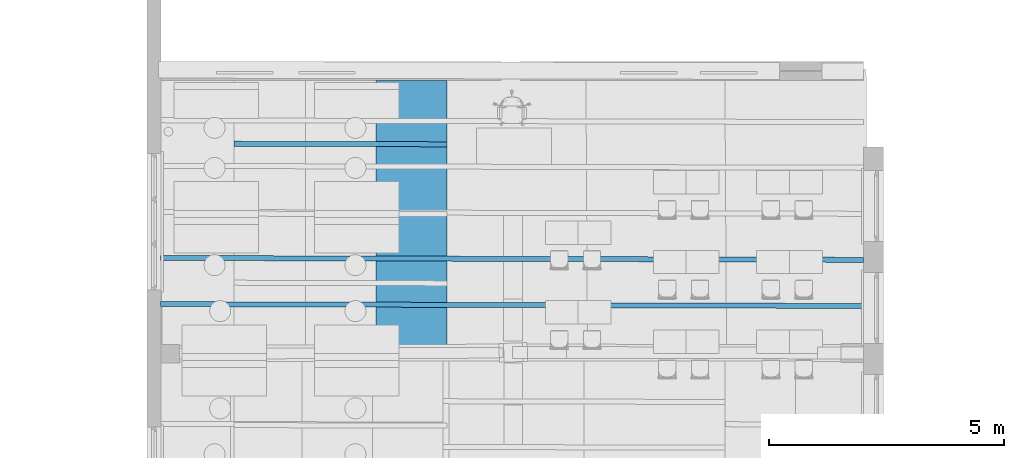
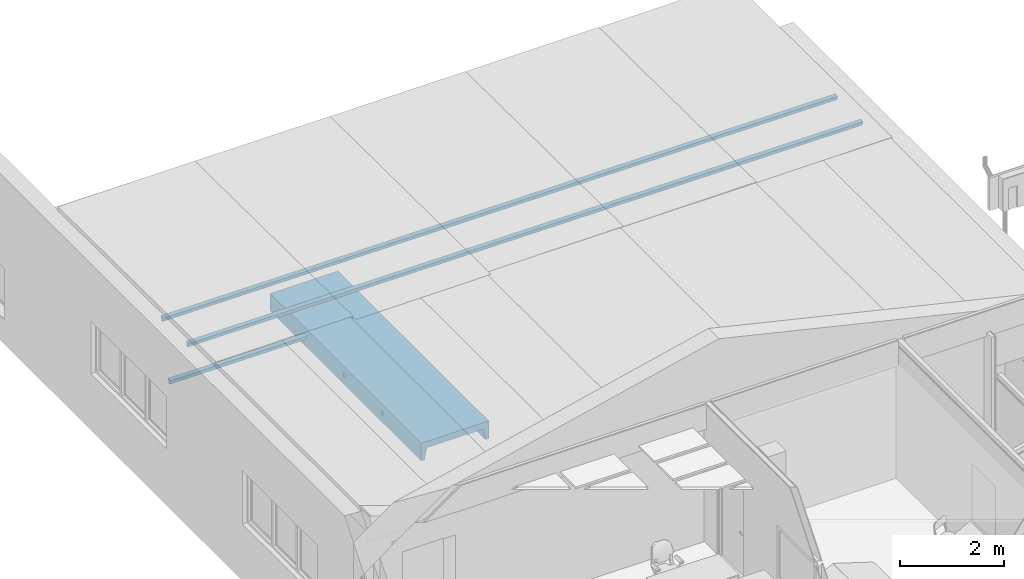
# One storey, part 25 of 153: 4 beams.
"""IFC2X3 building model written with IfcOpenShell, lengths in millimetres."""

from ifc_helpers import new_model, entity, si_unit, converted_unit, derived_unit, money_unit, direction, frame, origin_with_axes, place, context, subcontext, project, spatial, faceted_brep, material, type_object, element, save


model = new_model("IFC2X3")

# Units and contexts
model_context = context("Model", 3, precision=0.01, world=origin_with_axes(), true_north=direction((0.0, 1.0)))
body_context = subcontext(model_context, "Body", "Model", "MODEL_VIEW")
ifc_project = project(units=[si_unit("LENGTHUNIT", "METRE", prefix="MILLI"), si_unit("AREAUNIT", "SQUARE_METRE"), si_unit("VOLUMEUNIT", "CUBIC_METRE"), converted_unit("PLANEANGLEUNIT", "DEGREE", entity("IfcPlaneAngleMeasure", 0.0174532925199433), si_unit("PLANEANGLEUNIT", "RADIAN"), dimensions=[0, 0, 0, 0, 0, 0, 0]), money_unit("EUR"), converted_unit("TIMEUNIT", "Year", entity("IfcTimeMeasure", 31557600.0), si_unit("TIMEUNIT", "SECOND"), dimensions=[0, 0, 1, 0, 0, 0, 0]), si_unit("MASSUNIT", "GRAM", prefix="KILO"), si_unit("THERMODYNAMICTEMPERATUREUNIT", "DEGREE_CELSIUS"), si_unit("LUMINOUSINTENSITYUNIT", "LUMEN"), si_unit("ENERGYUNIT", "JOULE", prefix="MEGA"), derived_unit("THERMALCONDUCTANCEUNIT", [(si_unit("POWERUNIT", "WATT"), 1), (si_unit("LENGTHUNIT", "METRE"), -1), (si_unit("THERMODYNAMICTEMPERATUREUNIT", "KELVIN"), -1)]), derived_unit("SPECIFICHEATCAPACITYUNIT", [(si_unit("ENERGYUNIT", "JOULE"), 1), (si_unit("MASSUNIT", "GRAM", prefix="KILO"), -1), (si_unit("THERMODYNAMICTEMPERATUREUNIT", "KELVIN"), -1)]), derived_unit("MASSDENSITYUNIT", [(si_unit("MASSUNIT", "GRAM", prefix="KILO"), 1), (si_unit("VOLUMEUNIT", "CUBIC_METRE"), -1)])], contexts=[model_context])

# Site, building, storey
site_placement = place(None, frame((0.0, 0.0, 8650.0), z_axis=(0.0, 0.0, 1.0), x_axis=(1.0, 0.0, 0.0)))
site = spatial("IfcSite", under=ifc_project, at=site_placement, Name="43301:001:0844", CompositionType="ELEMENT")
building_placement = place(site_placement, origin_with_axes())
building = spatial("IfcBuilding", under=site, at=building_placement, Name="Kuressaare Ametikooli tuulikute mehaanikute õppekorpus", CompositionType="ELEMENT")
storey_placement = place(building_placement, frame((0.0, 0.0, 4100.0), z_axis=(0.0, 0.0, 1.0), x_axis=(1.0, 0.0, 0.0)))
storey = spatial("IfcBuildingStorey", under=building, at=storey_placement, Name="2.korrus", CompositionType="ELEMENT", Elevation=4100.0)

# Beams
ifc_material = material(Name="GENEERILINE - KONSTRUKTRIOON")
beam_type_1 = type_object("IfcBeamType", Name="Precast Single Tee 2 107 x 102", PredefinedType="NOTDEFINED")
beam_1_placement = place(storey_placement, frame((88253.53754057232, 34063.28625440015, 2805.133663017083), z_axis=(0.0, 0.0, 1.0), x_axis=(-0.002672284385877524, -0.9999964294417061, 0.0)))
element("IfcBeam", 1, at=beam_1_placement, inside=storey, type_object=beam_type_1, material=ifc_material, context=body_context, shape_type="Brep", body=[
    faceted_brep([(45.31502884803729, 0.0, -5.574334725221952), (45.31502884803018, 14968.80935978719, -5.574334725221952), (53.51387546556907, 14968.8093597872, 0.0), (53.51387546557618, 0.0, 0.0), (40.74041549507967, 0.0, -14.37019773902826), (40.74041549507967, 14968.80935978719, -14.37019773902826), (20.00045776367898, 14968.80935978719, -101.9474782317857), (-19.99954223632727, 14968.80935978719, -101.9474782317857), (-40.74046173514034, 14968.80935978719, -14.37000248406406), (-45.31509550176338, 14968.80935978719, -5.574259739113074), (-53.51387546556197, 14968.80935978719, 0.0), (-53.51387546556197, 0.0, 0.0), (-45.31509550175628, 0.0, -5.574259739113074), (-40.74046173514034, 0.0, -14.37000248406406), (-19.99954223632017, 0.0, -101.9474782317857), (20.00045776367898, 0.0, -101.9474782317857)], [[[0, 1, 2, 3]], [[4, 5, 1, 0]], [[2, 1, 5, 6, 7, 8, 9, 10]], [[3, 2, 10, 11]], [[4, 0, 3, 11, 12, 13, 14, 15]], [[15, 6, 5, 4]], [[14, 7, 6, 15]], [[13, 8, 7, 14]], [[12, 9, 8, 13]], [[11, 10, 9, 12]]]),
])
beam_2_placement = place(storey_placement, frame((88250.91151458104, 33080.60019420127, 2805.133663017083), z_axis=(0.0, 0.0, 1.0), x_axis=(-0.002672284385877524, -0.9999964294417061, 0.0)))
element("IfcBeam", 2, at=beam_2_placement, inside=storey, type_object=beam_type_1, material=ifc_material, context=body_context, shape_type="Brep", body=[
    faceted_brep([(45.31502884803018, 0.0, -5.574334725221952), (45.31502884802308, 14968.8093597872, -5.574334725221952), (53.51387546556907, 14968.80935978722, 0.0), (53.51387546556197, 0.0, 0.0), (40.74041549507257, 0.0, -14.37019773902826), (40.74041549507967, 14968.8093597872, -14.37019773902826), (20.00045776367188, 14968.8093597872, -101.9474782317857), (-19.99954223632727, 14968.80935978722, -101.9474782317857), (-40.74046173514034, 14968.80935978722, -14.37000248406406), (-45.31509550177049, 14968.8093597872, -5.574259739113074), (-53.51387546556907, 14968.8093597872, 0.0), (-53.51387546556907, 0.0, 0.0), (-45.31509550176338, 0.0, -5.574259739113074), (-40.74046173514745, 0.0, -14.37000248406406), (-19.99954223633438, 0.0, -101.9474782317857), (20.00045776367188, 0.0, -101.9474782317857)], [[[0, 1, 2, 3]], [[4, 5, 1, 0]], [[2, 1, 5, 6, 7, 8, 9, 10]], [[3, 2, 10, 11]], [[4, 0, 3, 11, 12, 13, 14, 15]], [[15, 6, 5, 4]], [[14, 7, 6, 15]], [[13, 8, 7, 14]], [[12, 9, 8, 13]], [[11, 10, 9, 12]]]),
])
beam_3_placement = place(storey_placement, frame((89817.75241851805, 36496.26794610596, -689.9999999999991), z_axis=(0.0, 0.0, 1.0), x_axis=(-0.002672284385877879, -0.9999964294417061, 0.0)))
element("IfcBeam", 3, at=beam_3_placement, inside=storey, type_object=beam_type_1, material=ifc_material, context=body_context, shape_type="Brep", body=[
    faceted_brep([(45.31502884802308, 0.0, -5.574334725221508), (45.31502884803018, 4530.01617468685, -5.574334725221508), (53.51387546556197, 4530.016174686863, 0.0), (53.51387546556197, 0.0, 0.0), (40.74041549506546, 0.0, -14.37019773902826), (40.74041549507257, 4530.01617468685, -14.37019773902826), (20.00045776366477, 4530.01617468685, -101.9474782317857), (-19.99954223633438, 4530.01617468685, -101.9474782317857), (-40.74046173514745, 4530.01617468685, -14.3700024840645), (-45.31509550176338, 4530.016174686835, -5.574259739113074), (-53.51387546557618, 4530.01617468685, 0.0), (-53.51387546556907, 0.0, 0.0), (-45.31509550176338, 0.0, -5.574259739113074), (-40.74046173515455, 0.0, -14.3700024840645), (-19.99954223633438, 0.0, -101.9474782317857), (20.00045776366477, 0.0, -101.9474782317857)], [[[0, 1, 2, 3]], [[4, 5, 1, 0]], [[2, 1, 5, 6, 7, 8, 9, 10]], [[3, 2, 10, 11]], [[4, 0, 3, 11, 12, 13, 14, 15]], [[15, 6, 5, 4]], [[14, 7, 6, 15]], [[13, 8, 7, 14]], [[12, 9, 8, 13]], [[11, 10, 9, 12]]]),
])
beam_type_2 = type_object("IfcBeamType", Name="Precast Double Tee 3 1505 x 415", PredefinedType="NOTDEFINED")
beam_4_placement = place(storey_placement, frame((93595.25241851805, 37845.7716648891, -539.9999999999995), z_axis=(0.0, 0.0, 1.0), x_axis=(-1.0, 0.0, 0.0)))
element("IfcBeam", 4, at=beam_4_placement, inside=storey, type_object=beam_type_2, material=ifc_material, context=body_context, shape_type="Brep", body=[
    faceted_brep([(752.4999999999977, 5811.435005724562, -415.0001340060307), (752.4999999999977, 5811.435005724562, 0.0), (752.4999999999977, 0.0, 0.0), (752.4999999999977, 0.0, -415.0001340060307), (752.4999999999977, 4358.881004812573, -164.3701977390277), (752.4999999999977, 4338.140973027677, -251.9474782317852), (752.4999999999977, 4298.140830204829, -251.9474782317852), (752.4999999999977, 4277.399836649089, -164.370002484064), (752.4999999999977, 4272.825186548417, -155.5742597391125), (752.4999999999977, 4264.626377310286, -149.9999999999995), (752.4999999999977, 4371.654510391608, -149.9999999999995), (752.4999999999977, 4363.455634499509, -155.574334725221), (752.4999999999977, 2866.661683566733, -251.9474782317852), (752.4999999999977, 2826.661540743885, -251.9474782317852), (752.4999999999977, 2805.920547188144, -164.370002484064), (752.4999999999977, 2801.345897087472, -155.5742597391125), (752.4999999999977, 2793.147087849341, -149.9999999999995), (752.4999999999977, 2900.175220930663, -149.9999999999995), (752.4999999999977, 2891.976345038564, -155.574334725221), (752.4999999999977, 2887.401715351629, -164.3701977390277), (752.4999999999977, 1337.587794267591, -251.9474782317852), (752.4999999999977, 1316.846800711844, -164.370002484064), (752.4999999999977, 1312.272150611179, -155.5742597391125), (752.4999999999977, 1304.073341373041, -149.9999999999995), (752.4999999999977, 1411.101474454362, -149.9999999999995), (752.4999999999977, 1402.902598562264, -155.574334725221), (752.4999999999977, 1398.327968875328, -164.3701977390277), (752.4999999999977, 1377.587937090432, -251.9474782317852), (-622.2729588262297, 5811.435005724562, -164.7455999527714), (-634.006952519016, 5811.435005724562, -180.6953582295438), (-639.3267904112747, 5811.435005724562, -199.7683947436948), (-673.3034736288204, 5811.435005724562, -415.0001340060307), (-752.4999999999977, 5811.435005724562, -415.0001340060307), (-752.4999999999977, 5811.435005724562, 0.0), (677.703581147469, 5811.435005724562, -415.0001340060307), (636.6763730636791, 5811.435005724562, -190.2223607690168), (631.3112965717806, 5811.435005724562, -174.3189382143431), (620.7357625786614, 5811.435005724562, -161.2858658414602), (606.2782794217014, 5811.435005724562, -152.7603702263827), (589.7550094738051, 5811.435005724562, -149.8134319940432), (588.6967641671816, 5811.435005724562, -149.8234995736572), (-586.2901817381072, 5811.435005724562, -149.8234995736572), (-605.6480043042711, 5811.435005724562, -153.9895651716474), (-752.4999999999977, 0.0, 0.0), (677.703581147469, 0.0, -415.0001340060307), (-752.4999999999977, 0.0, -415.0001340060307), (-673.3034736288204, 0.0, -415.0001340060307), (-639.3267904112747, 0.0, -199.7683947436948), (-634.006952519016, 0.0, -180.6953582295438), (-622.2729588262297, 0.0, -164.7455999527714), (-605.6480043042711, 0.0, -153.9895651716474), (-586.2901817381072, 0.0, -149.8234995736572), (588.6967641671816, 0.0, -149.8234995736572), (589.7550094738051, 0.0, -149.8134319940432), (606.2782794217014, 0.0, -152.7603702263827), (620.7357625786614, 0.0, -161.2858658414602), (631.3112965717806, 0.0, -174.3189382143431), (636.6763730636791, 0.0, -190.2223607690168), (647.9426526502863, 4338.420380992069, -251.9474782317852), (623.238507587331, 4359.226429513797, -164.3701977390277), (631.3112965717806, 4356.848798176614, -174.3189382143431), (636.6763730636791, 4353.068216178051, -190.2223607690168), (647.9426526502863, 4298.420238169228, -251.9474782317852), (636.6763730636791, 4283.831971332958, -190.2223607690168), (631.3112965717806, 4280.079897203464, -174.3189382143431), (623.2383491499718, 4277.74526177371, -164.370002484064), (620.7357625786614, 4276.147895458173, -161.2858658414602), (611.0500559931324, 4273.203182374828, -155.5742597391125), (606.2782794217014, 4269.077170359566, -152.7603702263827), (590.8010828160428, 4265.058484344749, -149.9999999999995), (590.8010828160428, 4372.086617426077, -149.9999999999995), (611.0501831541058, 4363.833629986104, -155.574334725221), (606.2782794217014, 4367.985233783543, -152.7603702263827), (620.7357625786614, 4360.837244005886, -161.2858658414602), (647.9426526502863, 2866.941091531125, -251.9474782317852), (647.9426526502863, 2826.940948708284, -251.9474782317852), (636.6763730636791, 2812.352681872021, -190.2223607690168), (631.3112965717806, 2808.60060774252, -174.3189382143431), (623.2383491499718, 2806.265972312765, -164.370002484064), (620.7357625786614, 2804.668605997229, -161.2858658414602), (611.0500559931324, 2801.723892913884, -155.5742597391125), (606.2782794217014, 2797.597880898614, -152.7603702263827), (590.8010828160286, 2793.579194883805, -149.9999999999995), (590.8010828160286, 2900.607327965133, -149.9999999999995), (606.2782794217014, 2896.505944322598, -152.7603702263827), (611.05018315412, 2892.354340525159, -155.574334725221), (620.7357625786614, 2889.357954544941, -161.2858658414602), (623.238507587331, 2887.747140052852, -164.3701977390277), (631.3112965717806, 2885.369508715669, -174.3189382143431), (636.6763730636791, 2881.588926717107, -190.2223607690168), (636.6763730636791, 1323.27893539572, -190.2223607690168), (631.3112965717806, 1319.526861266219, -174.3189382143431), (623.2383491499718, 1317.192225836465, -164.370002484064), (647.9426526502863, 1337.867202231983, -251.9474782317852), (620.7357625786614, 1315.594859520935, -161.2858658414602), (611.0500559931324, 1312.650146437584, -155.5742597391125), (606.2782794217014, 1308.524134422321, -152.7603702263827), (590.8010828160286, 1304.505448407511, -149.9999999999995), (590.8010828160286, 1411.533581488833, -149.9999999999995), (606.2782794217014, 1407.432197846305, -152.7603702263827), (611.05018315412, 1403.280594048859, -155.574334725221), (620.7357625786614, 1400.284208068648, -161.2858658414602), (623.238507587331, 1398.673393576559, -164.3701977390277), (631.3112965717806, 1396.295762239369, -174.3189382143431), (636.6763730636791, 1392.515180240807, -190.2223607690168), (647.9426526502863, 1377.867345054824, -251.9474782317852), (-634.006952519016, 4358.720038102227, -180.6953582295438), (-622.2729588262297, 4362.465899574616, -164.7455999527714), (-639.3267904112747, 4354.217382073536, -199.7683947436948), (-639.3267904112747, 2818.023326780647, -199.7683947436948), (-639.3267904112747, 1393.664346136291, -199.7683947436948), (-647.5638292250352, 1381.329319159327, -251.9474782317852), (-647.5638292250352, 1341.32917633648, -251.9474782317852), (-639.3267904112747, 1328.949580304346, -199.7683947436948), (-647.563829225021, 4341.882355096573, -251.9474782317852), (-647.563829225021, 4301.882212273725, -251.9474782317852), (-639.3267904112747, 4289.502616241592, -199.7683947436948), (-639.3267904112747, 2882.738092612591, -199.7683947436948), (-647.5638292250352, 2870.403065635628, -251.9474782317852), (-647.5638292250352, 2830.40292281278, -251.9474782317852), (-752.4999999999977, 4276.846988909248, -155.5742597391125), (-752.4999999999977, 4281.421639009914, -164.370002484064), (-752.4999999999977, 4302.162632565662, -251.9474782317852), (-752.4999999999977, 4322.162246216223, -251.9474782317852), (-752.4999999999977, 4322.16224621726, -149.9999999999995), (-752.4999999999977, 4268.64817967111, -149.9999999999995), (-752.4999999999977, 2809.942349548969, -164.370002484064), (-752.4999999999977, 2830.683343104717, -251.9474782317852), (-752.4999999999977, 2850.68295674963, -251.9474782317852), (-752.4999999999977, 2850.682956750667, -149.9999999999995), (-752.4999999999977, 2797.168890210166, -149.9999999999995), (-752.4999999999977, 2805.367699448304, -155.5742597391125), (-752.4999999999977, 1341.609596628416, -251.9474782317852), (-752.4999999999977, 1361.609210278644, -251.9474782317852), (-752.4999999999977, 1361.609210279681, -149.9999999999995), (-752.4999999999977, 1308.095143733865, -149.9999999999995), (-752.4999999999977, 1316.293952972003, -155.5742597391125), (-752.4999999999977, 1320.868603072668, -164.370002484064), (-587.1102993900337, 1307.653173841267, -149.9999999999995), (-587.1102993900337, 1414.681306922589, -149.9999999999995), (-605.6480043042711, 1408.862889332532, -153.9895651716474), (-605.6480043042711, 2802.644445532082, -153.9895651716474), (-587.1102993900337, 2796.726920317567, -149.9999999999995), (-587.1102993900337, 2903.755053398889, -149.9999999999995), (-605.6480043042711, 2897.936635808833, -153.9895651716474), (-605.6480043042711, 4274.123734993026, -153.9895651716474), (-587.1102993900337, 4268.206209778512, -149.9999999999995), (-587.1102993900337, 4375.234342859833, -149.9999999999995), (-605.6480043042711, 4369.415925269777, -153.9895651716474), (-605.6480043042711, 1313.570699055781, -153.9895651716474), (-608.0974870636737, 4367.091550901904, -155.574334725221), (-621.6927222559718, 4362.553251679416, -164.3701977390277), (-634.006952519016, 1324.418292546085, -180.6953582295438), (-622.2729588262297, 1320.609550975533, -164.7455999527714), (-621.6924204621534, 1320.519046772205, -164.370002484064), (-608.0973711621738, 1315.908066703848, -155.5742597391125), (-752.3911300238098, 4362.902516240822, -164.3701977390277), (-752.4465530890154, 4342.162632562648, -251.9474782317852), (-634.006952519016, 2813.492039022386, -180.6953582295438), (-634.006952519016, 1398.167002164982, -180.6953582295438), (-752.4465530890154, 1381.609596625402, -251.9474782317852), (-622.2729588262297, 1401.912863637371, -164.7455999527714), (-621.692722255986, 1402.00021574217, -164.3701977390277), (-752.3911300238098, 1402.349480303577, -164.3701977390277), (-634.006952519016, 4284.97132848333, -180.6953582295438), (-621.6924204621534, 4281.07208270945, -164.370002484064), (-622.2729588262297, 4281.162586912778, -164.7455999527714), (-634.006952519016, 2887.240748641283, -180.6953582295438), (-752.3911300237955, 2891.423226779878, -164.3701977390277), (-752.4465530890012, 2870.683343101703, -251.9474782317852), (-622.2729588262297, 2890.986610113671, -164.7455999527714), (-621.692722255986, 2891.073962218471, -164.3701977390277), (-621.6924204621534, 2809.592793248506, -164.370002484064), (-622.2729588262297, 2809.683297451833, -164.7455999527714), (-608.0973711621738, 4276.461102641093, -155.5742597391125), (-752.3789053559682, 4367.477113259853, -155.574334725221), (-752.3569957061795, 4375.675930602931, -149.9999999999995), (-752.378905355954, 2895.997823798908, -155.574334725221), (-752.3569957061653, 2904.196641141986, -149.9999999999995), (-608.0973711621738, 2804.981813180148, -155.5742597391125), (-752.3569957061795, 1415.122894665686, -149.9999999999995), (-752.3789053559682, 1406.924077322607, -155.574334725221), (-608.0974870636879, 1406.538514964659, -155.574334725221), (-608.0974870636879, 2895.61226144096, -155.574334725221)], [[[0, 1, 2, 3], [4, 5, 6, 7, 8, 9, 10, 11], [12, 13, 14, 15, 16, 17, 18, 19], [20, 21, 22, 23, 24, 25, 26, 27]], [[28, 29, 30, 31, 32, 33, 1, 0, 34, 35, 36, 37, 38, 39, 40, 41, 42]], [[1, 33, 43, 2]], [[44, 3, 2, 43, 45, 46, 47, 48, 49, 50, 51, 52, 53, 54, 55, 56, 57]], [[34, 0, 3, 44]], [[58, 5, 4, 59, 60, 61]], [[62, 6, 5, 58]], [[6, 62, 63, 64, 65, 7]], [[8, 7, 65, 66, 67]], [[9, 8, 67, 68, 69]], [[70, 10, 9, 69]], [[71, 11, 10, 70, 72]], [[59, 4, 11, 71, 73]], [[13, 12, 74, 75]], [[75, 76, 77, 78, 14, 13]], [[14, 78, 79, 80, 15]], [[15, 80, 81, 82, 16]], [[17, 16, 82, 83]], [[18, 17, 83, 84, 85]], [[19, 18, 85, 86, 87]], [[12, 19, 87, 88, 89, 74]], [[90, 91, 92, 21, 20, 93]], [[92, 94, 95, 22, 21]], [[95, 96, 97, 23, 22]], [[23, 97, 98, 24]], [[24, 98, 99, 100, 25]], [[25, 100, 101, 102, 26]], [[26, 102, 103, 104, 105, 27]], [[27, 105, 93, 20]], [[106, 29, 28, 107]], [[108, 30, 29, 106]], [[109, 110, 111, 112, 113, 47, 46, 31, 30, 108, 114, 115, 116, 117, 118, 119]], [[32, 31, 46, 45]], [[33, 32, 45, 43], [120, 121, 122, 123, 124, 125], [126, 127, 128, 129, 130, 131], [132, 133, 134, 135, 136, 137]], [[93, 105, 104, 76, 75, 74, 89, 63, 62, 58, 61, 35, 34, 44, 57, 90]], [[60, 36, 35, 61]], [[37, 36, 60, 59, 73]], [[38, 37, 73, 71, 72]], [[81, 99, 98, 97, 96, 54, 53, 39, 38, 72, 70, 69, 68, 84, 83, 82]], [[40, 39, 53, 52]], [[41, 40, 52, 51]], [[138, 139, 140, 141, 142, 143, 144, 145, 146, 147, 148, 42, 41, 51, 50, 149]], [[42, 148, 150, 151, 107, 28]], [[47, 113, 152, 48]], [[48, 152, 153, 49]], [[154, 155, 149, 50, 49, 153]], [[96, 95, 94, 55, 54]], [[94, 92, 91, 56, 55]], [[56, 91, 90, 57]], [[64, 63, 89, 88]], [[64, 88, 87, 86, 66, 65]], [[66, 86, 85, 84, 68, 67]], [[76, 104, 103, 77]], [[103, 102, 101, 79, 78, 77]], [[101, 100, 99, 81, 80, 79]], [[151, 156, 157, 114, 108, 106, 107]], [[158, 159, 110, 109]], [[160, 111, 110, 159, 161, 162, 163]], [[160, 133, 132, 112, 111]], [[112, 132, 137, 154, 153, 152, 113]], [[115, 114, 157, 123, 122]], [[164, 116, 115, 122, 121, 165, 166]], [[116, 164, 167, 117]], [[168, 169, 118, 117, 167, 170, 171]], [[118, 169, 128, 127, 119]], [[109, 119, 127, 126, 172, 173, 158]], [[120, 174, 165, 121]], [[156, 175, 176, 124, 123, 157]], [[176, 147, 146, 125, 124]], [[146, 145, 174, 120, 125]], [[177, 178, 129, 128, 169, 168]], [[143, 142, 130, 129, 178]], [[141, 179, 131, 130, 142]], [[179, 172, 126, 131]], [[180, 134, 133, 160, 163, 181]], [[138, 135, 134, 180, 139]], [[155, 136, 135, 138, 149]], [[154, 137, 136, 155]], [[181, 182, 140, 139, 180]], [[182, 162, 161, 173, 172, 179, 141, 140]], [[178, 177, 183, 144, 143]], [[144, 183, 171, 170, 166, 165, 174, 145]], [[147, 176, 175, 150, 148]], [[150, 175, 156, 151]], [[173, 161, 159, 158]], [[163, 162, 182, 181]], [[164, 166, 170, 167]], [[177, 168, 171, 183]]]),
])

save(model, "model.ifc")
